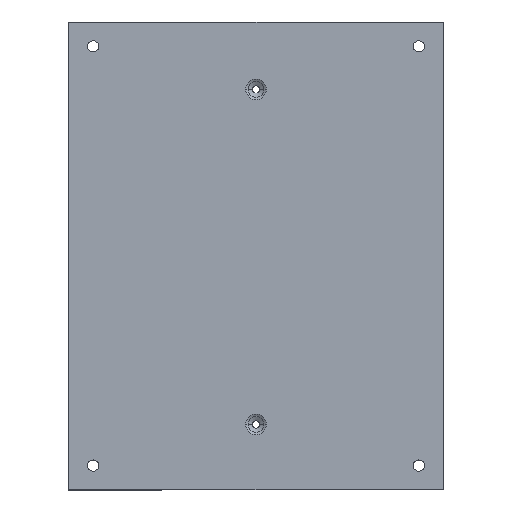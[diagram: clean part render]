
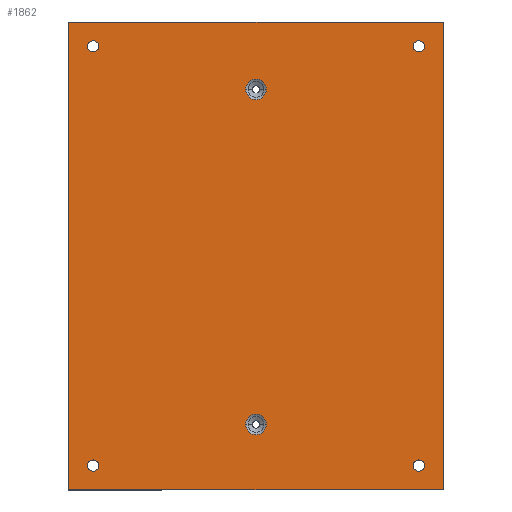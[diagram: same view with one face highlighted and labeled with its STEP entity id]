
A CAD part, top view. The second image highlights one B-rep face of the part: STEP entity #1862.
In plain terms, the highlighted planar face has unit normal (0, 0, 1).
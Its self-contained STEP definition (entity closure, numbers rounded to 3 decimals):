
#226 = ORIENTED_EDGE ( 'NONE', *, *, #6769, .T. ) ;
#352 = EDGE_LOOP ( 'NONE', ( #6500, #9699 ) ) ;
#401 = DIRECTION ( 'NONE',  ( -1., 0., 0. ) ) ;
#472 = ORIENTED_EDGE ( 'NONE', *, *, #3989, .F. ) ;
#498 = DIRECTION ( 'NONE',  ( 1., 0., 0. ) ) ;
#512 = DIRECTION ( 'NONE',  ( -1., 0., 0. ) ) ;
#645 = CIRCLE ( 'NONE', #4541, 5.5 ) ;
#649 = AXIS2_PLACEMENT_3D ( 'NONE', #7972, #9362, #4124 ) ;
#719 = CIRCLE ( 'NONE', #950, 5.5 ) ;
#840 = FACE_BOUND ( 'NONE', #9976, .T. ) ;
#949 = CIRCLE ( 'NONE', #1898, 3. ) ;
#950 = AXIS2_PLACEMENT_3D ( 'NONE', #7341, #2084, #8224 ) ;
#1013 = AXIS2_PLACEMENT_3D ( 'NONE', #9595, #4359, #10478 ) ;
#1059 = CARTESIAN_POINT ( 'NONE',  ( -84., -172., 30. ) ) ;
#1113 = FACE_BOUND ( 'NONE', #3823, .T. ) ;
#1368 = AXIS2_PLACEMENT_3D ( 'NONE', #7375, #2122, #8260 ) ;
#1459 = VERTEX_POINT ( 'NONE', #3477 ) ;
#1513 = CARTESIAN_POINT ( 'NONE',  ( 5.5, 29., 30. ) ) ;
#1547 = DIRECTION ( 'NONE',  ( 0., 0., 1. ) ) ;
#1703 = DIRECTION ( 'NONE',  ( 1., 0., 0. ) ) ;
#1862 = ADVANCED_FACE ( 'NONE', ( #1113, #3163, #10145, #5507, #840, #9877, #7555 ), #7089, .T. ) ;
#1898 = AXIS2_PLACEMENT_3D ( 'NONE', #3699, #9823, #4590 ) ;
#2011 = VERTEX_POINT ( 'NONE', #1513 ) ;
#2048 = CARTESIAN_POINT ( 'NONE',  ( 100., -185., 30. ) ) ;
#2084 = DIRECTION ( 'NONE',  ( 0., 0., 1. ) ) ;
#2122 = DIRECTION ( 'NONE',  ( 0., 0., -1. ) ) ;
#2220 = VERTEX_POINT ( 'NONE', #5971 ) ;
#2226 = CARTESIAN_POINT ( 'NONE',  ( -100., 65., 30. ) ) ;
#2234 = ORIENTED_EDGE ( 'NONE', *, *, #11260, .F. ) ;
#2278 = LINE ( 'NONE', #10466, #11332 ) ;
#2313 = CIRCLE ( 'NONE', #5050, 5.5 ) ;
#2547 = VERTEX_POINT ( 'NONE', #9580 ) ;
#2624 = EDGE_CURVE ( 'NONE', #4246, #11167, #2278, .T. ) ;
#2803 = CARTESIAN_POINT ( 'NONE',  ( 5.5, -150., 30. ) ) ;
#2969 = LINE ( 'NONE', #5111, #9677 ) ;
#2988 = EDGE_LOOP ( 'NONE', ( #226, #9035 ) ) ;
#3073 = DIRECTION ( 'NONE',  ( -1., 0., 0. ) ) ;
#3163 = FACE_BOUND ( 'NONE', #5891, .T. ) ;
#3317 = EDGE_CURVE ( 'NONE', #2547, #3744, #6407, .T. ) ;
#3328 = CARTESIAN_POINT ( 'NONE',  ( -90., -172., 30. ) ) ;
#3477 = CARTESIAN_POINT ( 'NONE',  ( -84., 52., 30. ) ) ;
#3494 = CIRCLE ( 'NONE', #10777, 3. ) ;
#3699 = CARTESIAN_POINT ( 'NONE',  ( -87., 52., 30. ) ) ;
#3744 = VERTEX_POINT ( 'NONE', #11244 ) ;
#3794 = VERTEX_POINT ( 'NONE', #7766 ) ;
#3823 = EDGE_LOOP ( 'NONE', ( #472, #2234 ) ) ;
#3870 = ORIENTED_EDGE ( 'NONE', *, *, #4416, .F. ) ;
#3885 = DIRECTION ( 'NONE',  ( 0., 0., -1. ) ) ;
#3989 = EDGE_CURVE ( 'NONE', #2011, #3794, #645, .T. ) ;
#4068 = CARTESIAN_POINT ( 'NONE',  ( -100., 65., 30. ) ) ;
#4124 = DIRECTION ( 'NONE',  ( 1., 0., 0. ) ) ;
#4127 = EDGE_CURVE ( 'NONE', #11167, #10240, #2969, .T. ) ;
#4183 = CIRCLE ( 'NONE', #5859, 3. ) ;
#4246 = VERTEX_POINT ( 'NONE', #6005 ) ;
#4269 = CARTESIAN_POINT ( 'NONE',  ( 87., 52., 30. ) ) ;
#4346 = EDGE_CURVE ( 'NONE', #9981, #9025, #9406, .T. ) ;
#4359 = DIRECTION ( 'NONE',  ( 0., 0., -1. ) ) ;
#4413 = CARTESIAN_POINT ( 'NONE',  ( -87., -172., 30. ) ) ;
#4416 = EDGE_CURVE ( 'NONE', #4925, #5967, #4750, .T. ) ;
#4541 = AXIS2_PLACEMENT_3D ( 'NONE', #6808, #1547, #7688 ) ;
#4590 = DIRECTION ( 'NONE',  ( -1., 0., 0. ) ) ;
#4653 = ORIENTED_EDGE ( 'NONE', *, *, #8496, .F. ) ;
#4750 = CIRCLE ( 'NONE', #9810, 5.5 ) ;
#4827 = DIRECTION ( 'NONE',  ( 0., 0., 1. ) ) ;
#4915 = ORIENTED_EDGE ( 'NONE', *, *, #7287, .T. ) ;
#4925 = VERTEX_POINT ( 'NONE', #9817 ) ;
#4983 = EDGE_LOOP ( 'NONE', ( #9040, #7189, #6626, #4915 ) ) ;
#5050 = AXIS2_PLACEMENT_3D ( 'NONE', #10985, #5741, #498 ) ;
#5111 = CARTESIAN_POINT ( 'NONE',  ( 100., 65., 30. ) ) ;
#5147 = DIRECTION ( 'NONE',  ( -1., 0., 0. ) ) ;
#5171 = EDGE_CURVE ( 'NONE', #1459, #2220, #10915, .T. ) ;
#5292 = DIRECTION ( 'NONE',  ( -1., 0., 0. ) ) ;
#5341 = CIRCLE ( 'NONE', #10331, 3. ) ;
#5507 = FACE_BOUND ( 'NONE', #2988, .T. ) ;
#5535 = EDGE_LOOP ( 'NONE', ( #9859, #9820 ) ) ;
#5645 = DIRECTION ( 'NONE',  ( 0., 0., -1. ) ) ;
#5741 = DIRECTION ( 'NONE',  ( 0., 0., 1. ) ) ;
#5747 = VECTOR ( 'NONE', #9310, 1000. ) ;
#5757 = DIRECTION ( 'NONE',  ( 0., 0., -1. ) ) ;
#5859 = AXIS2_PLACEMENT_3D ( 'NONE', #10998, #5757, #512 ) ;
#5891 = EDGE_LOOP ( 'NONE', ( #4653, #3870 ) ) ;
#5940 = CARTESIAN_POINT ( 'NONE',  ( 90., 52., 30. ) ) ;
#5967 = VERTEX_POINT ( 'NONE', #2803 ) ;
#5971 = CARTESIAN_POINT ( 'NONE',  ( -90., 52., 30. ) ) ;
#6005 = CARTESIAN_POINT ( 'NONE',  ( -100., -185., 30. ) ) ;
#6039 = LINE ( 'NONE', #4068, #5747 ) ;
#6119 = EDGE_CURVE ( 'NONE', #9025, #9981, #11025, .T. ) ;
#6407 = CIRCLE ( 'NONE', #1013, 3. ) ;
#6500 = ORIENTED_EDGE ( 'NONE', *, *, #3317, .T. ) ;
#6626 = ORIENTED_EDGE ( 'NONE', *, *, #4127, .T. ) ;
#6694 = ORIENTED_EDGE ( 'NONE', *, *, #9283, .T. ) ;
#6769 = EDGE_CURVE ( 'NONE', #8872, #9483, #3494, .T. ) ;
#6790 = LINE ( 'NONE', #2226, #8846 ) ;
#6808 = CARTESIAN_POINT ( 'NONE',  ( 0., 29., 30. ) ) ;
#6893 = AXIS2_PLACEMENT_3D ( 'NONE', #4269, #10390, #5147 ) ;
#6931 = CARTESIAN_POINT ( 'NONE',  ( 100., 65., 30. ) ) ;
#7089 = PLANE ( 'NONE',  #649 ) ;
#7189 = ORIENTED_EDGE ( 'NONE', *, *, #2624, .T. ) ;
#7287 = EDGE_CURVE ( 'NONE', #10240, #8777, #6790, .T. ) ;
#7323 = EDGE_CURVE ( 'NONE', #3744, #2547, #4183, .T. ) ;
#7341 = CARTESIAN_POINT ( 'NONE',  ( 0., 29., 30. ) ) ;
#7375 = CARTESIAN_POINT ( 'NONE',  ( -87., 52., 30. ) ) ;
#7555 = FACE_OUTER_BOUND ( 'NONE', #4983, .T. ) ;
#7652 = EDGE_CURVE ( 'NONE', #8777, #4246, #6039, .T. ) ;
#7688 = DIRECTION ( 'NONE',  ( 1., 0., 0. ) ) ;
#7766 = CARTESIAN_POINT ( 'NONE',  ( -5.5, 29., 30. ) ) ;
#7972 = CARTESIAN_POINT ( 'NONE',  ( 0., 0., 30. ) ) ;
#7981 = CARTESIAN_POINT ( 'NONE',  ( 84., 52., 30. ) ) ;
#8224 = DIRECTION ( 'NONE',  ( 1., 0., 0. ) ) ;
#8260 = DIRECTION ( 'NONE',  ( -1., 0., 0. ) ) ;
#8496 = EDGE_CURVE ( 'NONE', #5967, #4925, #2313, .T. ) ;
#8777 = VERTEX_POINT ( 'NONE', #11059 ) ;
#8846 = VECTOR ( 'NONE', #3073, 1000. ) ;
#8872 = VERTEX_POINT ( 'NONE', #3328 ) ;
#9025 = VERTEX_POINT ( 'NONE', #5940 ) ;
#9035 = ORIENTED_EDGE ( 'NONE', *, *, #9621, .T. ) ;
#9040 = ORIENTED_EDGE ( 'NONE', *, *, #7652, .T. ) ;
#9135 = CARTESIAN_POINT ( 'NONE',  ( 87., 52., 30. ) ) ;
#9283 = EDGE_CURVE ( 'NONE', #2220, #1459, #949, .T. ) ;
#9310 = DIRECTION ( 'NONE',  ( 0., -1., 0. ) ) ;
#9362 = DIRECTION ( 'NONE',  ( 0., 0., 1. ) ) ;
#9406 = CIRCLE ( 'NONE', #6893, 3. ) ;
#9483 = VERTEX_POINT ( 'NONE', #1059 ) ;
#9580 = CARTESIAN_POINT ( 'NONE',  ( 84., -172., 30. ) ) ;
#9595 = CARTESIAN_POINT ( 'NONE',  ( 87., -172., 30. ) ) ;
#9621 = EDGE_CURVE ( 'NONE', #9483, #8872, #5341, .T. ) ;
#9677 = VECTOR ( 'NONE', #11240, 1000. ) ;
#9699 = ORIENTED_EDGE ( 'NONE', *, *, #7323, .T. ) ;
#9810 = AXIS2_PLACEMENT_3D ( 'NONE', #10067, #4827, #10957 ) ;
#9817 = CARTESIAN_POINT ( 'NONE',  ( -5.5, -150., 30. ) ) ;
#9820 = ORIENTED_EDGE ( 'NONE', *, *, #6119, .T. ) ;
#9823 = DIRECTION ( 'NONE',  ( 0., 0., -1. ) ) ;
#9859 = ORIENTED_EDGE ( 'NONE', *, *, #4346, .T. ) ;
#9877 = FACE_BOUND ( 'NONE', #5535, .T. ) ;
#9976 = EDGE_LOOP ( 'NONE', ( #6694, #10952 ) ) ;
#9981 = VERTEX_POINT ( 'NONE', #7981 ) ;
#10004 = DIRECTION ( 'NONE',  ( -1., 0., 0. ) ) ;
#10067 = CARTESIAN_POINT ( 'NONE',  ( 0., -150., 30. ) ) ;
#10145 = FACE_BOUND ( 'NONE', #352, .T. ) ;
#10177 = AXIS2_PLACEMENT_3D ( 'NONE', #9135, #3885, #10004 ) ;
#10240 = VERTEX_POINT ( 'NONE', #6931 ) ;
#10331 = AXIS2_PLACEMENT_3D ( 'NONE', #4413, #10534, #5292 ) ;
#10390 = DIRECTION ( 'NONE',  ( 0., 0., -1. ) ) ;
#10466 = CARTESIAN_POINT ( 'NONE',  ( -100., -185., 30. ) ) ;
#10478 = DIRECTION ( 'NONE',  ( -1., 0., 0. ) ) ;
#10534 = DIRECTION ( 'NONE',  ( 0., 0., -1. ) ) ;
#10777 = AXIS2_PLACEMENT_3D ( 'NONE', #10889, #5645, #401 ) ;
#10889 = CARTESIAN_POINT ( 'NONE',  ( -87., -172., 30. ) ) ;
#10915 = CIRCLE ( 'NONE', #1368, 3. ) ;
#10952 = ORIENTED_EDGE ( 'NONE', *, *, #5171, .T. ) ;
#10957 = DIRECTION ( 'NONE',  ( 1., 0., 0. ) ) ;
#10985 = CARTESIAN_POINT ( 'NONE',  ( 0., -150., 30. ) ) ;
#10998 = CARTESIAN_POINT ( 'NONE',  ( 87., -172., 30. ) ) ;
#11025 = CIRCLE ( 'NONE', #10177, 3. ) ;
#11059 = CARTESIAN_POINT ( 'NONE',  ( -100., 65., 30. ) ) ;
#11167 = VERTEX_POINT ( 'NONE', #2048 ) ;
#11240 = DIRECTION ( 'NONE',  ( 0., 1., 0. ) ) ;
#11244 = CARTESIAN_POINT ( 'NONE',  ( 90., -172., 30. ) ) ;
#11260 = EDGE_CURVE ( 'NONE', #3794, #2011, #719, .T. ) ;
#11332 = VECTOR ( 'NONE', #1703, 1000. ) ;
